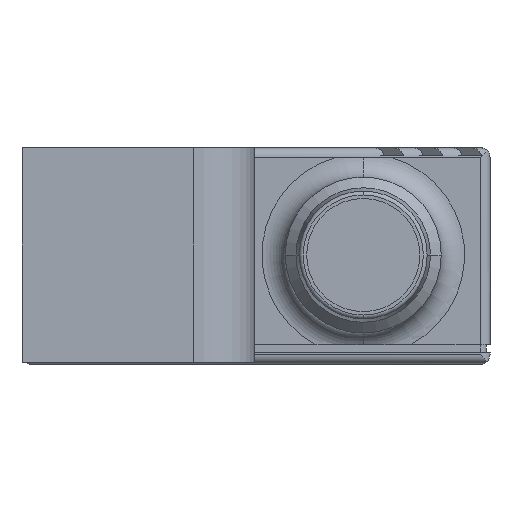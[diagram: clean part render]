
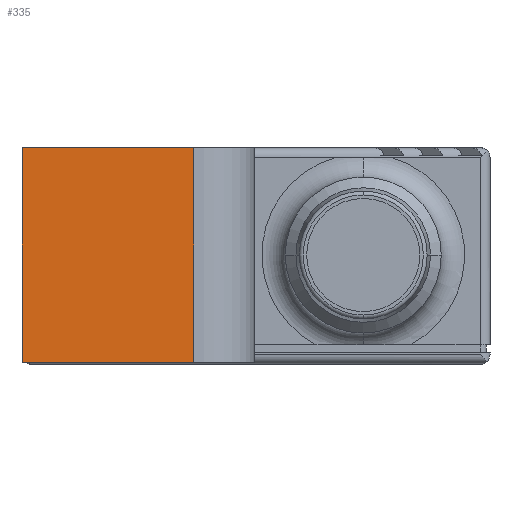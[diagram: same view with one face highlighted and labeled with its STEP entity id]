
A CAD part, front view. The second image highlights one B-rep face of the part: STEP entity #335.
In plain terms, the highlighted planar face has unit normal (0, -1, 0).
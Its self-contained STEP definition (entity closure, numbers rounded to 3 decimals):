
#335 = ADVANCED_FACE( '', ( #684 ), #685, .T. );
#684 = FACE_OUTER_BOUND( '', #1042, .T. );
#685 = PLANE( '', #1043 );
#1042 = EDGE_LOOP( '', ( #2407, #2408, #2409, #2410 ) );
#1043 = AXIS2_PLACEMENT_3D( '', #2411, #2412, #2413 );
#2407 = ORIENTED_EDGE( '', *, *, #2873, .T. );
#2408 = ORIENTED_EDGE( '', *, *, #2918, .F. );
#2409 = ORIENTED_EDGE( '', *, *, #2919, .F. );
#2410 = ORIENTED_EDGE( '', *, *, #2916, .T. );
#2411 = CARTESIAN_POINT( '', ( -17.5, -1., 5.5 ) );
#2412 = DIRECTION( '', ( 0., -1., 0. ) );
#2413 = DIRECTION( '', ( -1., 0., 0. ) );
#2873 = EDGE_CURVE( '', #3580, #3578, #3581, .T. );
#2916 = EDGE_CURVE( '', #3649, #3580, #3650, .T. );
#2918 = EDGE_CURVE( '', #3652, #3578, #3653, .T. );
#2919 = EDGE_CURVE( '', #3649, #3652, #3654, .T. );
#3578 = VERTEX_POINT( '', #4642 );
#3580 = VERTEX_POINT( '', #4644 );
#3581 = LINE( '', #4645, #4646 );
#3649 = VERTEX_POINT( '', #4747 );
#3650 = LINE( '', #4748, #4749 );
#3652 = VERTEX_POINT( '', #4752 );
#3653 = LINE( '', #4753, #4754 );
#3654 = LINE( '', #4755, #4756 );
#4642 = CARTESIAN_POINT( '', ( -8.7, -1., -5.5 ) );
#4644 = CARTESIAN_POINT( '', ( -17.5, -1., -5.5 ) );
#4645 = CARTESIAN_POINT( '', ( -17.5, -1., -5.5 ) );
#4646 = VECTOR( '', #5457, 1. );
#4747 = CARTESIAN_POINT( '', ( -17.5, -1., 5.5 ) );
#4748 = CARTESIAN_POINT( '', ( -17.5, -1., 5.5 ) );
#4749 = VECTOR( '', #5518, 1. );
#4752 = CARTESIAN_POINT( '', ( -8.7, -1., 5.5 ) );
#4753 = CARTESIAN_POINT( '', ( -8.7, -1., 5.5 ) );
#4754 = VECTOR( '', #5520, 1. );
#4755 = CARTESIAN_POINT( '', ( -17.5, -1., 5.5 ) );
#4756 = VECTOR( '', #5521, 1. );
#5457 = DIRECTION( '', ( 1., 0., 0. ) );
#5518 = DIRECTION( '', ( 0., 0., -1. ) );
#5520 = DIRECTION( '', ( 0., 0., -1. ) );
#5521 = DIRECTION( '', ( 1., 0., 0. ) );
